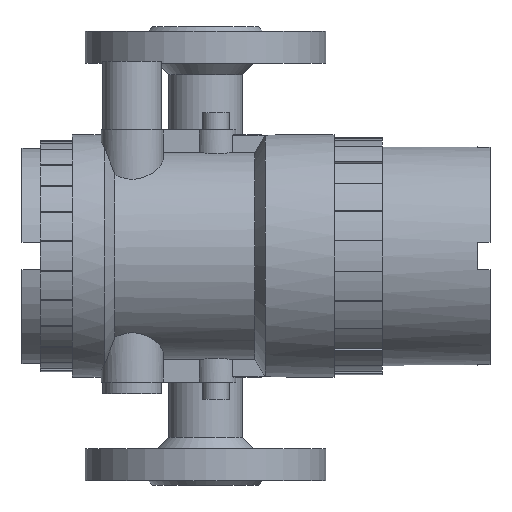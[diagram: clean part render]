
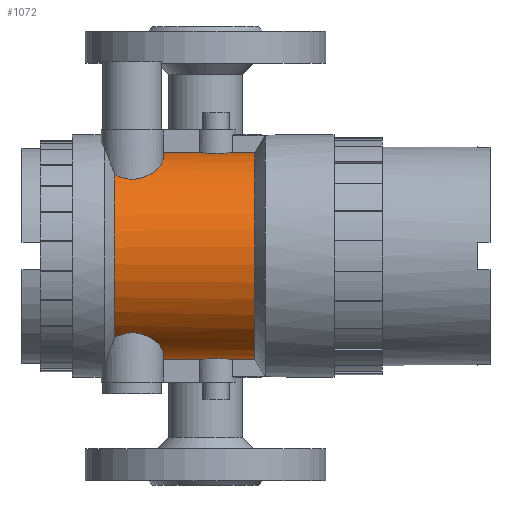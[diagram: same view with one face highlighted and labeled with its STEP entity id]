
A CAD part, left-side view. The second image highlights one B-rep face of the part: STEP entity #1072.
In plain terms, the highlighted cylindrical face has radius 45.45 mm (diameter 90.9 mm), a partial arc.
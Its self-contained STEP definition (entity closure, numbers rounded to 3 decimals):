
#63=B_SPLINE_CURVE_WITH_KNOTS('',3,(#6295,#6296,#6297,#6298,#6299,#6300,
#6301,#6302,#6303,#6304),.UNSPECIFIED.,.F.,.F.,(4,2,2,2,4),(0.,0.25,0.5,
0.75,1.),.UNSPECIFIED.);
#69=B_SPLINE_CURVE_WITH_KNOTS('',3,(#6350,#6351,#6352,#6353,#6354,#6355,
#6356,#6357,#6358,#6359),.UNSPECIFIED.,.F.,.F.,(4,2,2,2,4),(0.,0.25,0.5,
0.75,1.),.UNSPECIFIED.);
#74=B_SPLINE_CURVE_WITH_KNOTS('',3,(#6446,#6447,#6448,#6449,#6450,#6451),
 .UNSPECIFIED.,.F.,.F.,(4,2,4),(0.,0.5,1.),.UNSPECIFIED.);
#75=B_SPLINE_CURVE_WITH_KNOTS('',3,(#6452,#6453,#6454,#6455,#6456,#6457),
 .UNSPECIFIED.,.F.,.F.,(4,2,4),(0.,0.5,1.),.UNSPECIFIED.);
#286=CYLINDRICAL_SURFACE('',#4205,45.45);
#578=LINE('',#6400,#876);
#584=LINE('',#6416,#882);
#589=LINE('',#6442,#887);
#591=LINE('',#6459,#889);
#876=VECTOR('',#5211,1.);
#882=VECTOR('',#5225,1.);
#887=VECTOR('',#5236,1.);
#889=VECTOR('',#5240,1.);
#1072=ADVANCED_FACE('',(#1386),#286,.T.);
#1386=FACE_OUTER_BOUND('',#1589,.T.);
#1589=EDGE_LOOP('',(#2567,#2568,#2569,#2570,#2571,#2572,#2573,#2574,#2575,
#2576,#2577,#2578));
#2567=ORIENTED_EDGE('',*,*,#3579,.T.);
#2568=ORIENTED_EDGE('',*,*,#3561,.T.);
#2569=ORIENTED_EDGE('',*,*,#3539,.T.);
#2570=ORIENTED_EDGE('',*,*,#3577,.T.);
#2571=ORIENTED_EDGE('',*,*,#3580,.T.);
#2572=ORIENTED_EDGE('',*,*,#3581,.T.);
#2573=ORIENTED_EDGE('',*,*,#3548,.T.);
#2574=ORIENTED_EDGE('',*,*,#3544,.T.);
#2575=ORIENTED_EDGE('',*,*,#3534,.F.);
#2576=ORIENTED_EDGE('',*,*,#3532,.T.);
#2577=ORIENTED_EDGE('',*,*,#3525,.T.);
#2578=ORIENTED_EDGE('',*,*,#3569,.T.);
#3024=VERTEX_POINT('',#6278);
#3025=VERTEX_POINT('',#6279);
#3031=VERTEX_POINT('',#6305);
#3032=VERTEX_POINT('',#6314);
#3036=VERTEX_POINT('',#6331);
#3037=VERTEX_POINT('',#6333);
#3041=VERTEX_POINT('',#6360);
#3044=VERTEX_POINT('',#6368);
#3053=VERTEX_POINT('',#6401);
#3059=VERTEX_POINT('',#6417);
#3065=VERTEX_POINT('',#6443);
#3066=VERTEX_POINT('',#6458);
#3525=EDGE_CURVE('',#3024,#3025,#3798,.T.);
#3532=EDGE_CURVE('',#3031,#3024,#63,.T.);
#3534=EDGE_CURVE('',#3031,#3032,#3800,.T.);
#3539=EDGE_CURVE('',#3037,#3036,#3803,.T.);
#3544=EDGE_CURVE('',#3041,#3032,#69,.T.);
#3548=EDGE_CURVE('',#3044,#3041,#3807,.T.);
#3561=EDGE_CURVE('',#3053,#3037,#578,.T.);
#3569=EDGE_CURVE('',#3025,#3059,#584,.T.);
#3577=EDGE_CURVE('',#3036,#3065,#589,.T.);
#3579=EDGE_CURVE('',#3059,#3053,#74,.T.);
#3580=EDGE_CURVE('',#3065,#3066,#75,.T.);
#3581=EDGE_CURVE('',#3066,#3044,#591,.T.);
#3798=CIRCLE('',#4171,45.45);
#3800=CIRCLE('',#4175,45.45);
#3803=CIRCLE('',#4179,45.45);
#3807=CIRCLE('',#4187,45.45);
#4171=AXIS2_PLACEMENT_3D('',#6277,#5147,#5148);
#4175=AXIS2_PLACEMENT_3D('',#6313,#5159,#5160);
#4179=AXIS2_PLACEMENT_3D('',#6332,#5167,#5168);
#4187=AXIS2_PLACEMENT_3D('',#6367,#5185,#5186);
#4205=AXIS2_PLACEMENT_3D('',#6460,#5241,#5242);
#5147=DIRECTION('',(0.,-1.,0.));
#5148=DIRECTION('',(1.,0.,0.));
#5159=DIRECTION('',(0.,1.,0.));
#5160=DIRECTION('',(-1.,0.,0.));
#5167=DIRECTION('',(0.,1.,0.));
#5168=DIRECTION('',(-1.,0.,0.));
#5185=DIRECTION('',(0.,-1.,0.));
#5186=DIRECTION('',(1.,0.,0.));
#5211=DIRECTION('',(0.,-1.,0.));
#5225=DIRECTION('',(0.,-1.,0.));
#5236=DIRECTION('',(0.,1.,0.));
#5240=DIRECTION('',(0.,1.,0.));
#5241=DIRECTION('',(0.,1.,0.));
#5242=DIRECTION('',(1.,0.,0.));
#6277=CARTESIAN_POINT('',(0.,18.5,-123.5));
#6278=CARTESIAN_POINT('',(-17.25,18.5,-165.549));
#6279=CARTESIAN_POINT('',(-5.,18.5,-168.674));
#6295=CARTESIAN_POINT('',(-28.475,39.5,-158.924));
#6296=CARTESIAN_POINT('',(-29.81,37.502,-157.851));
#6297=CARTESIAN_POINT('',(-30.661,35.049,-157.05));
#6298=CARTESIAN_POINT('',(-30.826,29.797,-156.899));
#6299=CARTESIAN_POINT('',(-30.103,27.216,-157.589));
#6300=CARTESIAN_POINT('',(-27.645,23.054,-159.611));
#6301=CARTESIAN_POINT('',(-25.948,21.425,-160.888));
#6302=CARTESIAN_POINT('',(-21.971,19.147,-163.355));
#6303=CARTESIAN_POINT('',(-19.688,18.5,-164.549));
#6304=CARTESIAN_POINT('',(-17.25,18.5,-165.549));
#6305=CARTESIAN_POINT('',(-28.475,39.5,-158.924));
#6313=CARTESIAN_POINT('',(0.,39.5,-123.5));
#6314=CARTESIAN_POINT('',(-28.475,39.5,-88.076));
#6331=CARTESIAN_POINT('',(-5.,-21.5,-78.326));
#6332=CARTESIAN_POINT('',(0.,-21.5,-123.5));
#6333=CARTESIAN_POINT('',(-5.,-21.5,-168.674));
#6350=CARTESIAN_POINT('',(-17.25,18.5,-81.451));
#6351=CARTESIAN_POINT('',(-19.686,18.5,-82.45));
#6352=CARTESIAN_POINT('',(-21.976,19.149,-83.648));
#6353=CARTESIAN_POINT('',(-25.945,21.423,-86.11));
#6354=CARTESIAN_POINT('',(-27.64,23.053,-87.386));
#6355=CARTESIAN_POINT('',(-30.088,27.184,-89.399));
#6356=CARTESIAN_POINT('',(-30.819,29.779,-90.095));
#6357=CARTESIAN_POINT('',(-30.67,34.992,-89.958));
#6358=CARTESIAN_POINT('',(-29.813,37.498,-89.151));
#6359=CARTESIAN_POINT('',(-28.475,39.5,-88.076));
#6360=CARTESIAN_POINT('',(-17.25,18.5,-81.451));
#6367=CARTESIAN_POINT('',(0.,18.5,-123.5));
#6368=CARTESIAN_POINT('',(-5.,18.5,-78.326));
#6400=CARTESIAN_POINT('',(-5.,-123.5,-168.674));
#6401=CARTESIAN_POINT('',(-5.,-11.681,-168.674));
#6416=CARTESIAN_POINT('',(-5.,-123.5,-168.674));
#6417=CARTESIAN_POINT('',(-5.,2.681,-168.674));
#6442=CARTESIAN_POINT('',(-5.,-123.5,-78.326));
#6443=CARTESIAN_POINT('',(-5.,-11.681,-78.326));
#6446=CARTESIAN_POINT('',(-5.,2.681,-168.674));
#6447=CARTESIAN_POINT('',(-7.321,1.064,-168.417));
#6448=CARTESIAN_POINT('',(-8.747,-1.672,-168.1));
#6449=CARTESIAN_POINT('',(-8.753,-7.31,-168.099));
#6450=CARTESIAN_POINT('',(-7.321,-10.064,-168.417));
#6451=CARTESIAN_POINT('',(-5.,-11.681,-168.674));
#6452=CARTESIAN_POINT('',(-5.,-11.681,-78.326));
#6453=CARTESIAN_POINT('',(-7.321,-10.064,-78.583));
#6454=CARTESIAN_POINT('',(-8.747,-7.328,-78.9));
#6455=CARTESIAN_POINT('',(-8.753,-1.69,-78.901));
#6456=CARTESIAN_POINT('',(-7.321,1.064,-78.583));
#6457=CARTESIAN_POINT('',(-5.,2.681,-78.326));
#6458=CARTESIAN_POINT('',(-5.,2.681,-78.326));
#6459=CARTESIAN_POINT('',(-5.,-123.5,-78.326));
#6460=CARTESIAN_POINT('',(0.,-123.5,-123.5));
